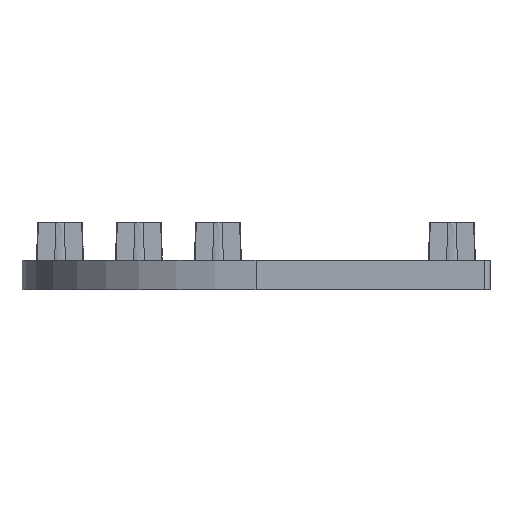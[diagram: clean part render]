
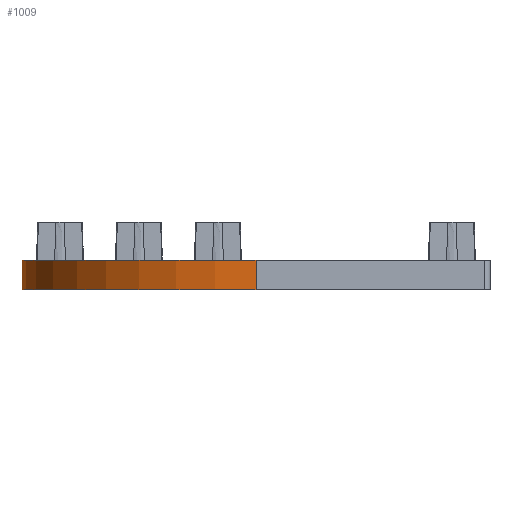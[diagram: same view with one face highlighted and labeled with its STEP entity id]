
A CAD part, front view. The second image highlights one B-rep face of the part: STEP entity #1009.
In plain terms, the highlighted cylindrical face has radius 40 mm (diameter 80 mm), a partial arc.
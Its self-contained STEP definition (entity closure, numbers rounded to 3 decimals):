
#167 = ORIENTED_EDGE ( 'NONE', *, *, #2510, .F. ) ;
#217 = CARTESIAN_POINT ( 'NONE',  ( -40., 0., 5. ) ) ;
#232 = ORIENTED_EDGE ( 'NONE', *, *, #2604, .F. ) ;
#254 = VERTEX_POINT ( 'NONE', #2559 ) ;
#415 = ORIENTED_EDGE ( 'NONE', *, *, #2162, .F. ) ;
#452 = CARTESIAN_POINT ( 'NONE',  ( 0., -40., 0. ) ) ;
#505 = EDGE_CURVE ( 'NONE', #1699, #254, #1732, .T. ) ;
#622 = CYLINDRICAL_SURFACE ( 'NONE', #2146, 40. ) ;
#684 = EDGE_LOOP ( 'NONE', ( #2247, #167, #415, #232 ) ) ;
#695 = DIRECTION ( 'NONE',  ( 1., 0., 0. ) ) ;
#760 = CARTESIAN_POINT ( 'NONE',  ( 0., -40., 5. ) ) ;
#804 = LINE ( 'NONE', #1528, #2316 ) ;
#847 = DIRECTION ( 'NONE',  ( 0., 0., 1. ) ) ;
#990 = LINE ( 'NONE', #452, #2682 ) ;
#1009 = ADVANCED_FACE ( 'NONE', ( #3074 ), #622, .T. ) ;
#1070 = CIRCLE ( 'NONE', #1914, 40. ) ;
#1262 = CARTESIAN_POINT ( 'NONE',  ( 0., 0., 0. ) ) ;
#1493 = DIRECTION ( 'NONE',  ( 0., 0., -1. ) ) ;
#1528 = CARTESIAN_POINT ( 'NONE',  ( -40., 0., 0. ) ) ;
#1589 = CARTESIAN_POINT ( 'NONE',  ( 0., 0., 0. ) ) ;
#1699 = VERTEX_POINT ( 'NONE', #2463 ) ;
#1732 = CIRCLE ( 'NONE', #2192, 40. ) ;
#1852 = DIRECTION ( 'NONE',  ( 1., 0., 0. ) ) ;
#1914 = AXIS2_PLACEMENT_3D ( 'NONE', #2195, #1928, #695 ) ;
#1928 = DIRECTION ( 'NONE',  ( 0., 0., 1. ) ) ;
#1941 = DIRECTION ( 'NONE',  ( 0., 0., -1. ) ) ;
#2146 = AXIS2_PLACEMENT_3D ( 'NONE', #1589, #847, #1852 ) ;
#2162 = EDGE_CURVE ( 'NONE', #2737, #2954, #1070, .T. ) ;
#2192 = AXIS2_PLACEMENT_3D ( 'NONE', #1262, #1493, #2508 ) ;
#2195 = CARTESIAN_POINT ( 'NONE',  ( 0., 0., 5. ) ) ;
#2247 = ORIENTED_EDGE ( 'NONE', *, *, #505, .F. ) ;
#2316 = VECTOR ( 'NONE', #2509, 1000. ) ;
#2463 = CARTESIAN_POINT ( 'NONE',  ( 0., -40., 0. ) ) ;
#2508 = DIRECTION ( 'NONE',  ( 1., 0., 0. ) ) ;
#2509 = DIRECTION ( 'NONE',  ( 0., 0., 1. ) ) ;
#2510 = EDGE_CURVE ( 'NONE', #2954, #1699, #990, .T. ) ;
#2559 = CARTESIAN_POINT ( 'NONE',  ( -40., 0., 0. ) ) ;
#2604 = EDGE_CURVE ( 'NONE', #254, #2737, #804, .T. ) ;
#2682 = VECTOR ( 'NONE', #1941, 1000. ) ;
#2737 = VERTEX_POINT ( 'NONE', #217 ) ;
#2954 = VERTEX_POINT ( 'NONE', #760 ) ;
#3074 = FACE_OUTER_BOUND ( 'NONE', #684, .T. ) ;
